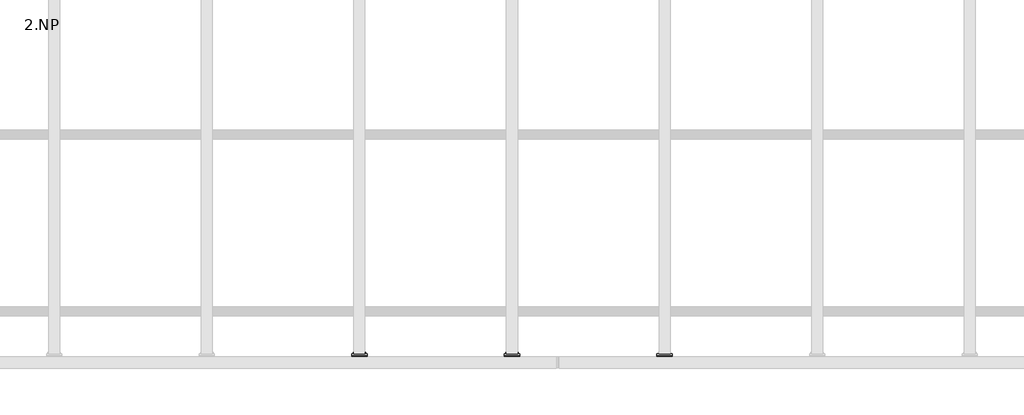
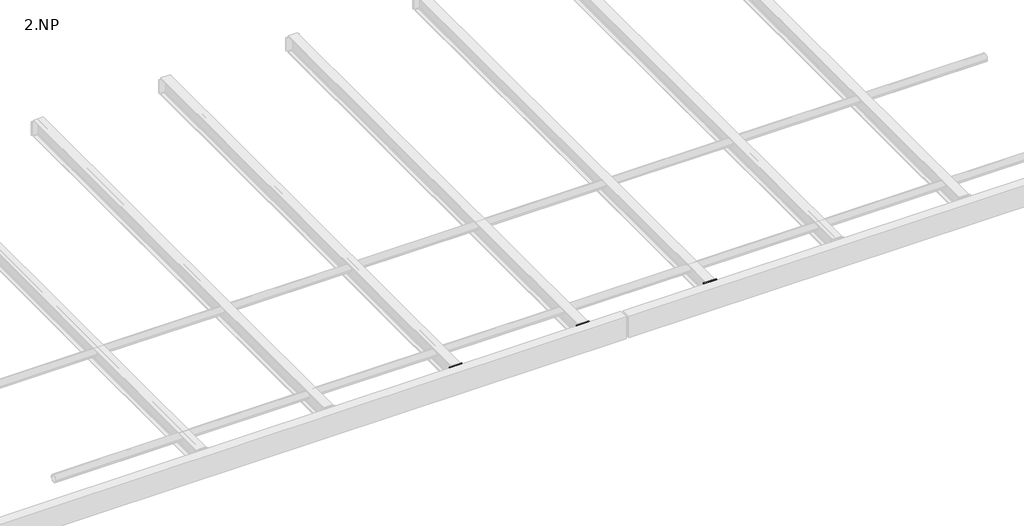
# One storey, part 5 of 18: 12 proxies.
"""IFC4 building model written with IfcOpenShell, lengths in millimetres."""

from ifc_helpers import new_model, si_unit, point, frame, frame_2d, origin, place, context, project, spatial, polyline, circle_curve, trimmed, segment, composite_curve, outline, extrude, element, save

model = new_model("IFC4")

# Units and contexts
model_context = context("Model", 3, world=origin())
ifc_project = project(units=[si_unit("LENGTHUNIT", "METRE", prefix="MILLI")], contexts=[model_context])

# Site, building, storey
site = spatial("IfcSite", under=ifc_project)
building = spatial("IfcBuilding", under=site)
storey = spatial("IfcBuildingStorey", under=building, Name="2.NP", Elevation=3000.0)

# Proxies
placement = place(None, origin())
element("IfcBuildingElementProxy", 1, Name="PLECH", ObjectType="PLECH", at=placement, inside=storey, context=model_context, shape_type="SweptSolid", body=[
    extrude(outline(polyline([(7000.0, -180.0), (7100.0, -180.0), (7100.0, -190.0), (7000.0, -190.0), (7000.0, -180.0)])), frame((0.0, 0.0, 3166.5), z_axis=(0.0, 0.0, 1.0), x_axis=(1.0, 0.0, 0.0)), (0.0, 0.0, 1.0), 127.0),
])
element("IfcBuildingElementProxy", 2, Name="PLECH", ObjectType="PLECH", at=placement, inside=storey, context=model_context, shape_type="SweptSolid", body=[
    extrude(outline(polyline([(8000.0, -180.0), (8100.0, -180.0), (8100.0, -190.0), (8000.0, -190.0), (8000.0, -180.0)])), frame((0.0, 0.0, 3166.5), z_axis=(0.0, 0.0, 1.0), x_axis=(1.0, 0.0, 0.0)), (0.0, 0.0, 1.0), 127.0),
])
element("IfcBuildingElementProxy", 3, Name="PLECH", ObjectType="PLECH", at=placement, inside=storey, context=model_context, shape_type="SweptSolid", body=[
    extrude(outline(polyline([(9000.0, -180.0), (9100.0, -180.0), (9100.0, -190.0), (9000.0, -190.0), (9000.0, -180.0)])), frame((0.0, 0.0, 3166.5), z_axis=(0.0, 0.0, 1.0), x_axis=(1.0, 0.0, 0.0)), (0.0, 0.0, 1.0), 127.0),
])
element("IfcBuildingElementProxy", 4, Name="PLECH", ObjectType="PLECH", at=placement, inside=storey, context=model_context, shape_type="SweptSolid", body=[
    extrude(outline(polyline([(7000.0, -190.0), (7100.0, -190.0), (7100.0, -200.0), (7000.0, -200.0), (7000.0, -190.0)])), frame((0.0, 0.0, 3127.5), z_axis=(0.0, 0.0, 1.0), x_axis=(1.0, 0.0, 0.0)), (0.0, 0.0, 1.0), 166.0000153),
])
element("IfcBuildingElementProxy", 5, Name="PLECH", ObjectType="PLECH", at=placement, inside=storey, context=model_context, shape_type="SweptSolid", body=[
    extrude(outline(composite_curve([segment(polyline([(-200.0, 3289.5), (-200.0, 3130.5), (-249.5, 3130.5)]), True, "CONTINUOUS"), segment(trimmed(circle_curve(frame_2d((-269.5, 3130.5)), 20.0), [point((-249.5, 3130.5))], [point((-269.5, 3150.5))], True, "CARTESIAN"), True, "CONTINUOUS"), segment(polyline([(-269.5, 3150.5), (-269.5, 3269.5)]), True, "CONTINUOUS"), segment(trimmed(circle_curve(frame_2d((-269.5, 3289.5)), 20.0), [point((-269.5, 3269.5))], [point((-249.5, 3289.5))], True, "CARTESIAN"), True, "CONTINUOUS"), segment(polyline([(-249.5, 3289.5), (-200.0, 3289.5)]), True, "CONTINUOUS")], self_intersect=False)), frame((7046.0, 0.0, 0.0), z_axis=(1.0, 0.0, 0.0), x_axis=(0.0, 1.0, 0.0)), (0.0, 0.0, 1.0), 8.0),
])
element("IfcBuildingElementProxy", 6, Name="PLECH", ObjectType="PLECH", at=placement, inside=storey, context=model_context, shape_type="SweptSolid", body=[
    extrude(outline(polyline([(8000.0, -190.0), (8100.0, -190.0), (8100.0, -200.0), (8000.0, -200.0), (8000.0, -190.0)])), frame((0.0, 0.0, 3127.5), z_axis=(0.0, 0.0, 1.0), x_axis=(1.0, 0.0, 0.0)), (0.0, 0.0, 1.0), 166.0000153),
])
element("IfcBuildingElementProxy", 7, Name="PLECH", ObjectType="PLECH", at=placement, inside=storey, context=model_context, shape_type="SweptSolid", body=[
    extrude(outline(composite_curve([segment(polyline([(-200.0, 3289.5), (-200.0, 3130.5), (-249.5, 3130.5)]), True, "CONTINUOUS"), segment(trimmed(circle_curve(frame_2d((-269.5, 3130.5)), 20.0), [point((-249.5, 3130.5))], [point((-269.5, 3150.5))], True, "CARTESIAN"), True, "CONTINUOUS"), segment(polyline([(-269.5, 3150.5), (-269.5, 3269.5)]), True, "CONTINUOUS"), segment(trimmed(circle_curve(frame_2d((-269.5, 3289.5)), 20.0), [point((-269.5, 3269.5))], [point((-249.5, 3289.5))], True, "CARTESIAN"), True, "CONTINUOUS"), segment(polyline([(-249.5, 3289.5), (-200.0, 3289.5)]), True, "CONTINUOUS")], self_intersect=False)), frame((8046.0, 0.0, 0.0), z_axis=(1.0, 0.0, 0.0), x_axis=(0.0, 1.0, 0.0)), (0.0, 0.0, 1.0), 8.0),
])
element("IfcBuildingElementProxy", 8, Name="PLECH", ObjectType="PLECH", at=placement, inside=storey, context=model_context, shape_type="SweptSolid", body=[
    extrude(outline(polyline([(9000.0, -190.0), (9100.0, -190.0), (9100.0, -200.0), (9000.0, -200.0), (9000.0, -190.0)])), frame((0.0, 0.0, 3127.5), z_axis=(0.0, 0.0, 1.0), x_axis=(1.0, 0.0, 0.0)), (0.0, 0.0, 1.0), 166.0000153),
])
element("IfcBuildingElementProxy", 9, Name="PLECH", ObjectType="PLECH", at=placement, inside=storey, context=model_context, shape_type="SweptSolid", body=[
    extrude(outline(composite_curve([segment(polyline([(-200.0, 3289.5), (-200.0, 3130.5), (-249.5, 3130.5)]), True, "CONTINUOUS"), segment(trimmed(circle_curve(frame_2d((-269.5, 3130.5)), 20.0), [point((-249.5, 3130.5))], [point((-269.5, 3150.5))], True, "CARTESIAN"), True, "CONTINUOUS"), segment(polyline([(-269.5, 3150.5), (-269.5, 3269.5)]), True, "CONTINUOUS"), segment(trimmed(circle_curve(frame_2d((-269.5, 3289.5)), 20.0), [point((-269.5, 3269.5))], [point((-249.5, 3289.5))], True, "CARTESIAN"), True, "CONTINUOUS"), segment(polyline([(-249.5, 3289.5), (-200.0, 3289.5)]), True, "CONTINUOUS")], self_intersect=False)), frame((9046.0, 0.0, 0.0), z_axis=(1.0, 0.0, 0.0), x_axis=(0.0, 1.0, 0.0)), (0.0, 0.0, 1.0), 8.0),
])
element("IfcBuildingElementProxy", 10, Name="Bolt assembly", ObjectType="Bolt assembly", at=placement, inside=storey, context=model_context, shape_type="SweptSolid", body=[
    extrude(outline(composite_curve([segment(trimmed(circle_curve(frame_2d((3260.0, 7020.0)), 6.5), [point((3260.0, 7026.5))], [point((3260.0, 7013.5))], False, "CARTESIAN"), True, "CONTINUOUS"), segment(trimmed(circle_curve(frame_2d((3260.0, 7020.0)), 6.5), [point((3260.0, 7013.5))], [point((3260.0, 7026.5))], False, "CARTESIAN"), True, "CONTINUOUS")], self_intersect=False)), frame((0.0, -199.9, 0.0), z_axis=(0.0, 1.0, 0.0), x_axis=(0.0, 0.0, 1.0)), (0.0, 0.0, 1.0), 10.0),
    extrude(outline(polyline([(3260.0, 7030.9696551), (3269.5, 7025.4848276), (3269.5, 7014.5151724), (3260.0, 7009.0303449), (3250.5, 7014.5151724), (3250.5, 7025.4848276), (3260.0, 7030.9696551)])), frame((0.0, -210.0, 0.0), z_axis=(0.0, 1.0, 0.0), x_axis=(0.0, 0.0, 1.0)), (0.0, 0.0, 1.0), 7.5),
    extrude(outline(composite_curve([segment(trimmed(circle_curve(frame_2d((3260.0, 7020.0)), 6.0), [point((3260.0, 7026.0))], [point((3260.0, 7014.0))], False, "CARTESIAN"), True, "CONTINUOUS"), segment(trimmed(circle_curve(frame_2d((3260.0, 7020.0)), 6.0), [point((3260.0, 7014.0))], [point((3260.0, 7026.0))], False, "CARTESIAN"), True, "CONTINUOUS")], self_intersect=False)), frame((0.0, -202.5, 0.0), z_axis=(0.0, 1.0, 0.0), x_axis=(0.0, 0.0, 1.0)), (0.0, 0.0, 1.0), 40.0),
    extrude(outline(composite_curve([segment(trimmed(circle_curve(frame_2d((3260.0, 7020.0)), 12.0), [point((3260.0, 7032.0))], [point((3260.0, 7008.0))], False, "CARTESIAN"), True, "CONTINUOUS"), segment(trimmed(circle_curve(frame_2d((3260.0, 7020.0)), 12.0), [point((3260.0, 7008.0))], [point((3260.0, 7032.0))], False, "CARTESIAN"), True, "CONTINUOUS")], self_intersect=False)), frame((0.0, -202.5, 0.0), z_axis=(0.0, 1.0, 0.0), x_axis=(0.0, 0.0, 1.0)), (0.0, 0.0, 1.0), 2.5),
    extrude(outline(composite_curve([segment(trimmed(circle_curve(frame_2d((3260.0, 7020.0)), 12.0), [point((3260.0, 7032.0))], [point((3260.0, 7008.0))], False, "CARTESIAN"), True, "CONTINUOUS"), segment(trimmed(circle_curve(frame_2d((3260.0, 7020.0)), 12.0), [point((3260.0, 7008.0))], [point((3260.0, 7032.0))], False, "CARTESIAN"), True, "CONTINUOUS")], self_intersect=False)), frame((0.0, -180.0, 0.0), z_axis=(0.0, 1.0, 0.0), x_axis=(0.0, 0.0, 1.0)), (0.0, 0.0, 1.0), 2.5),
    extrude(outline(polyline([(3260.0, 7030.9696551), (3269.5, 7025.4848276), (3269.5, 7014.5151724), (3260.0, 7009.0303449), (3250.5, 7014.5151724), (3250.5, 7025.4848276), (3260.0, 7030.9696551)])), frame((0.0, -177.5, 0.0), z_axis=(0.0, 1.0, 0.0), x_axis=(0.0, 0.0, 1.0)), (0.0, 0.0, 1.0), 10.0),
    extrude(outline(composite_curve([segment(trimmed(circle_curve(frame_2d((3260.0, 7020.0)), 6.5), [point((3260.0, 7026.5))], [point((3260.0, 7013.5))], False, "CARTESIAN"), True, "CONTINUOUS"), segment(trimmed(circle_curve(frame_2d((3260.0, 7020.0)), 6.5), [point((3260.0, 7013.5))], [point((3260.0, 7026.5))], False, "CARTESIAN"), True, "CONTINUOUS")], self_intersect=False)), frame((0.0, -190.1, 0.0), z_axis=(0.0, 1.0, 0.0), x_axis=(0.0, 0.0, 1.0)), (0.0, 0.0, 1.0), 10.1),
    extrude(outline(composite_curve([segment(trimmed(circle_curve(frame_2d((3260.0, 7080.0)), 6.5), [point((3260.0, 7086.5))], [point((3260.0, 7073.5))], False, "CARTESIAN"), True, "CONTINUOUS"), segment(trimmed(circle_curve(frame_2d((3260.0, 7080.0)), 6.5), [point((3260.0, 7073.5))], [point((3260.0, 7086.5))], False, "CARTESIAN"), True, "CONTINUOUS")], self_intersect=False)), frame((0.0, -199.9, 0.0), z_axis=(0.0, 1.0, 0.0), x_axis=(0.0, 0.0, 1.0)), (0.0, 0.0, 1.0), 10.0),
    extrude(outline(polyline([(3260.0, 7090.9696551), (3269.5, 7085.4848276), (3269.5, 7074.5151724), (3260.0, 7069.0303449), (3250.5, 7074.5151724), (3250.5, 7085.4848276), (3260.0, 7090.9696551)])), frame((0.0, -210.0, 0.0), z_axis=(0.0, 1.0, 0.0), x_axis=(0.0, 0.0, 1.0)), (0.0, 0.0, 1.0), 7.5),
    extrude(outline(composite_curve([segment(trimmed(circle_curve(frame_2d((3260.0, 7080.0)), 6.0), [point((3260.0, 7086.0))], [point((3260.0, 7074.0))], False, "CARTESIAN"), True, "CONTINUOUS"), segment(trimmed(circle_curve(frame_2d((3260.0, 7080.0)), 6.0), [point((3260.0, 7074.0))], [point((3260.0, 7086.0))], False, "CARTESIAN"), True, "CONTINUOUS")], self_intersect=False)), frame((0.0, -202.5, 0.0), z_axis=(0.0, 1.0, 0.0), x_axis=(0.0, 0.0, 1.0)), (0.0, 0.0, 1.0), 40.0),
    extrude(outline(composite_curve([segment(trimmed(circle_curve(frame_2d((3260.0, 7080.0)), 12.0), [point((3260.0, 7092.0))], [point((3260.0, 7068.0))], False, "CARTESIAN"), True, "CONTINUOUS"), segment(trimmed(circle_curve(frame_2d((3260.0, 7080.0)), 12.0), [point((3260.0, 7068.0))], [point((3260.0, 7092.0))], False, "CARTESIAN"), True, "CONTINUOUS")], self_intersect=False)), frame((0.0, -202.5, 0.0), z_axis=(0.0, 1.0, 0.0), x_axis=(0.0, 0.0, 1.0)), (0.0, 0.0, 1.0), 2.5),
    extrude(outline(composite_curve([segment(trimmed(circle_curve(frame_2d((3260.0, 7080.0)), 12.0), [point((3260.0, 7092.0))], [point((3260.0, 7068.0))], False, "CARTESIAN"), True, "CONTINUOUS"), segment(trimmed(circle_curve(frame_2d((3260.0, 7080.0)), 12.0), [point((3260.0, 7068.0))], [point((3260.0, 7092.0))], False, "CARTESIAN"), True, "CONTINUOUS")], self_intersect=False)), frame((0.0, -180.0, 0.0), z_axis=(0.0, 1.0, 0.0), x_axis=(0.0, 0.0, 1.0)), (0.0, 0.0, 1.0), 2.5),
    extrude(outline(polyline([(3260.0, 7090.9696551), (3269.5, 7085.4848276), (3269.5, 7074.5151724), (3260.0, 7069.0303449), (3250.5, 7074.5151724), (3250.5, 7085.4848276), (3260.0, 7090.9696551)])), frame((0.0, -177.5, 0.0), z_axis=(0.0, 1.0, 0.0), x_axis=(0.0, 0.0, 1.0)), (0.0, 0.0, 1.0), 10.0),
    extrude(outline(composite_curve([segment(trimmed(circle_curve(frame_2d((3260.0, 7080.0)), 6.5), [point((3260.0, 7086.5))], [point((3260.0, 7073.5))], False, "CARTESIAN"), True, "CONTINUOUS"), segment(trimmed(circle_curve(frame_2d((3260.0, 7080.0)), 6.5), [point((3260.0, 7073.5))], [point((3260.0, 7086.5))], False, "CARTESIAN"), True, "CONTINUOUS")], self_intersect=False)), frame((0.0, -190.1, 0.0), z_axis=(0.0, 1.0, 0.0), x_axis=(0.0, 0.0, 1.0)), (0.0, 0.0, 1.0), 10.1),
    extrude(outline(composite_curve([segment(trimmed(circle_curve(frame_2d((3200.0, 7020.0)), 6.5), [point((3200.0, 7026.5))], [point((3200.0, 7013.5))], False, "CARTESIAN"), True, "CONTINUOUS"), segment(trimmed(circle_curve(frame_2d((3200.0, 7020.0)), 6.5), [point((3200.0, 7013.5))], [point((3200.0, 7026.5))], False, "CARTESIAN"), True, "CONTINUOUS")], self_intersect=False)), frame((0.0, -199.9, 0.0), z_axis=(0.0, 1.0, 0.0), x_axis=(0.0, 0.0, 1.0)), (0.0, 0.0, 1.0), 10.0),
    extrude(outline(polyline([(3200.0, 7030.9696551), (3209.5, 7025.4848276), (3209.5, 7014.5151724), (3200.0, 7009.0303449), (3190.5, 7014.5151724), (3190.5, 7025.4848276), (3200.0, 7030.9696551)])), frame((0.0, -210.0, 0.0), z_axis=(0.0, 1.0, 0.0), x_axis=(0.0, 0.0, 1.0)), (0.0, 0.0, 1.0), 7.5),
    extrude(outline(composite_curve([segment(trimmed(circle_curve(frame_2d((3200.0, 7020.0)), 6.0), [point((3200.0, 7026.0))], [point((3200.0, 7014.0))], False, "CARTESIAN"), True, "CONTINUOUS"), segment(trimmed(circle_curve(frame_2d((3200.0, 7020.0)), 6.0), [point((3200.0, 7014.0))], [point((3200.0, 7026.0))], False, "CARTESIAN"), True, "CONTINUOUS")], self_intersect=False)), frame((0.0, -202.5, 0.0), z_axis=(0.0, 1.0, 0.0), x_axis=(0.0, 0.0, 1.0)), (0.0, 0.0, 1.0), 40.0),
    extrude(outline(composite_curve([segment(trimmed(circle_curve(frame_2d((3200.0, 7020.0)), 12.0), [point((3200.0, 7032.0))], [point((3200.0, 7008.0))], False, "CARTESIAN"), True, "CONTINUOUS"), segment(trimmed(circle_curve(frame_2d((3200.0, 7020.0)), 12.0), [point((3200.0, 7008.0))], [point((3200.0, 7032.0))], False, "CARTESIAN"), True, "CONTINUOUS")], self_intersect=False)), frame((0.0, -202.5, 0.0), z_axis=(0.0, 1.0, 0.0), x_axis=(0.0, 0.0, 1.0)), (0.0, 0.0, 1.0), 2.5),
    extrude(outline(composite_curve([segment(trimmed(circle_curve(frame_2d((3200.0, 7020.0)), 12.0), [point((3200.0, 7032.0))], [point((3200.0, 7008.0))], False, "CARTESIAN"), True, "CONTINUOUS"), segment(trimmed(circle_curve(frame_2d((3200.0, 7020.0)), 12.0), [point((3200.0, 7008.0))], [point((3200.0, 7032.0))], False, "CARTESIAN"), True, "CONTINUOUS")], self_intersect=False)), frame((0.0, -180.0, 0.0), z_axis=(0.0, 1.0, 0.0), x_axis=(0.0, 0.0, 1.0)), (0.0, 0.0, 1.0), 2.5),
    extrude(outline(polyline([(3200.0, 7030.9696551), (3209.5, 7025.4848276), (3209.5, 7014.5151724), (3200.0, 7009.0303449), (3190.5, 7014.5151724), (3190.5, 7025.4848276), (3200.0, 7030.9696551)])), frame((0.0, -177.5, 0.0), z_axis=(0.0, 1.0, 0.0), x_axis=(0.0, 0.0, 1.0)), (0.0, 0.0, 1.0), 10.0),
    extrude(outline(composite_curve([segment(trimmed(circle_curve(frame_2d((3200.0, 7020.0)), 6.5), [point((3200.0, 7026.5))], [point((3200.0, 7013.5))], False, "CARTESIAN"), True, "CONTINUOUS"), segment(trimmed(circle_curve(frame_2d((3200.0, 7020.0)), 6.5), [point((3200.0, 7013.5))], [point((3200.0, 7026.5))], False, "CARTESIAN"), True, "CONTINUOUS")], self_intersect=False)), frame((0.0, -190.1, 0.0), z_axis=(0.0, 1.0, 0.0), x_axis=(0.0, 0.0, 1.0)), (0.0, 0.0, 1.0), 10.1),
    extrude(outline(composite_curve([segment(trimmed(circle_curve(frame_2d((3200.0, 7080.0)), 6.5), [point((3200.0, 7086.5))], [point((3200.0, 7073.5))], False, "CARTESIAN"), True, "CONTINUOUS"), segment(trimmed(circle_curve(frame_2d((3200.0, 7080.0)), 6.5), [point((3200.0, 7073.5))], [point((3200.0, 7086.5))], False, "CARTESIAN"), True, "CONTINUOUS")], self_intersect=False)), frame((0.0, -199.9, 0.0), z_axis=(0.0, 1.0, 0.0), x_axis=(0.0, 0.0, 1.0)), (0.0, 0.0, 1.0), 10.0),
    extrude(outline(polyline([(3200.0, 7090.9696551), (3209.5, 7085.4848276), (3209.5, 7074.5151724), (3200.0, 7069.0303449), (3190.5, 7074.5151724), (3190.5, 7085.4848276), (3200.0, 7090.9696551)])), frame((0.0, -210.0, 0.0), z_axis=(0.0, 1.0, 0.0), x_axis=(0.0, 0.0, 1.0)), (0.0, 0.0, 1.0), 7.5),
    extrude(outline(composite_curve([segment(trimmed(circle_curve(frame_2d((3200.0, 7080.0)), 6.0), [point((3200.0, 7086.0))], [point((3200.0, 7074.0))], False, "CARTESIAN"), True, "CONTINUOUS"), segment(trimmed(circle_curve(frame_2d((3200.0, 7080.0)), 6.0), [point((3200.0, 7074.0))], [point((3200.0, 7086.0))], False, "CARTESIAN"), True, "CONTINUOUS")], self_intersect=False)), frame((0.0, -202.5, 0.0), z_axis=(0.0, 1.0, 0.0), x_axis=(0.0, 0.0, 1.0)), (0.0, 0.0, 1.0), 40.0),
    extrude(outline(composite_curve([segment(trimmed(circle_curve(frame_2d((3200.0, 7080.0)), 12.0), [point((3200.0, 7092.0))], [point((3200.0, 7068.0))], False, "CARTESIAN"), True, "CONTINUOUS"), segment(trimmed(circle_curve(frame_2d((3200.0, 7080.0)), 12.0), [point((3200.0, 7068.0))], [point((3200.0, 7092.0))], False, "CARTESIAN"), True, "CONTINUOUS")], self_intersect=False)), frame((0.0, -202.5, 0.0), z_axis=(0.0, 1.0, 0.0), x_axis=(0.0, 0.0, 1.0)), (0.0, 0.0, 1.0), 2.5),
    extrude(outline(composite_curve([segment(trimmed(circle_curve(frame_2d((3200.0, 7080.0)), 12.0), [point((3200.0, 7092.0))], [point((3200.0, 7068.0))], False, "CARTESIAN"), True, "CONTINUOUS"), segment(trimmed(circle_curve(frame_2d((3200.0, 7080.0)), 12.0), [point((3200.0, 7068.0))], [point((3200.0, 7092.0))], False, "CARTESIAN"), True, "CONTINUOUS")], self_intersect=False)), frame((0.0, -180.0, 0.0), z_axis=(0.0, 1.0, 0.0), x_axis=(0.0, 0.0, 1.0)), (0.0, 0.0, 1.0), 2.5),
    extrude(outline(polyline([(3200.0, 7090.9696551), (3209.5, 7085.4848276), (3209.5, 7074.5151724), (3200.0, 7069.0303449), (3190.5, 7074.5151724), (3190.5, 7085.4848276), (3200.0, 7090.9696551)])), frame((0.0, -177.5, 0.0), z_axis=(0.0, 1.0, 0.0), x_axis=(0.0, 0.0, 1.0)), (0.0, 0.0, 1.0), 10.0),
    extrude(outline(composite_curve([segment(trimmed(circle_curve(frame_2d((3200.0, 7080.0)), 6.5), [point((3200.0, 7086.5))], [point((3200.0, 7073.5))], False, "CARTESIAN"), True, "CONTINUOUS"), segment(trimmed(circle_curve(frame_2d((3200.0, 7080.0)), 6.5), [point((3200.0, 7073.5))], [point((3200.0, 7086.5))], False, "CARTESIAN"), True, "CONTINUOUS")], self_intersect=False)), frame((0.0, -190.1, 0.0), z_axis=(0.0, 1.0, 0.0), x_axis=(0.0, 0.0, 1.0)), (0.0, 0.0, 1.0), 10.1),
])
element("IfcBuildingElementProxy", 11, Name="Bolt assembly", ObjectType="Bolt assembly", at=placement, inside=storey, context=model_context, shape_type="SweptSolid", body=[
    extrude(outline(composite_curve([segment(trimmed(circle_curve(frame_2d((3260.0, 8020.0)), 6.5), [point((3260.0, 8026.5))], [point((3260.0, 8013.5))], False, "CARTESIAN"), True, "CONTINUOUS"), segment(trimmed(circle_curve(frame_2d((3260.0, 8020.0)), 6.5), [point((3260.0, 8013.5))], [point((3260.0, 8026.5))], False, "CARTESIAN"), True, "CONTINUOUS")], self_intersect=False)), frame((0.0, -199.9, 0.0), z_axis=(0.0, 1.0, 0.0), x_axis=(0.0, 0.0, 1.0)), (0.0, 0.0, 1.0), 10.0),
    extrude(outline(polyline([(3260.0, 8030.9696551), (3269.5, 8025.4848276), (3269.5, 8014.5151724), (3260.0, 8009.0303449), (3250.5, 8014.5151724), (3250.5, 8025.4848276), (3260.0, 8030.9696551)])), frame((0.0, -210.0, 0.0), z_axis=(0.0, 1.0, 0.0), x_axis=(0.0, 0.0, 1.0)), (0.0, 0.0, 1.0), 7.5),
    extrude(outline(composite_curve([segment(trimmed(circle_curve(frame_2d((3260.0, 8020.0)), 6.0), [point((3260.0, 8026.0))], [point((3260.0, 8014.0))], False, "CARTESIAN"), True, "CONTINUOUS"), segment(trimmed(circle_curve(frame_2d((3260.0, 8020.0)), 6.0), [point((3260.0, 8014.0))], [point((3260.0, 8026.0))], False, "CARTESIAN"), True, "CONTINUOUS")], self_intersect=False)), frame((0.0, -202.5, 0.0), z_axis=(0.0, 1.0, 0.0), x_axis=(0.0, 0.0, 1.0)), (0.0, 0.0, 1.0), 40.0),
    extrude(outline(composite_curve([segment(trimmed(circle_curve(frame_2d((3260.0, 8020.0)), 12.0), [point((3260.0, 8032.0))], [point((3260.0, 8008.0))], False, "CARTESIAN"), True, "CONTINUOUS"), segment(trimmed(circle_curve(frame_2d((3260.0, 8020.0)), 12.0), [point((3260.0, 8008.0))], [point((3260.0, 8032.0))], False, "CARTESIAN"), True, "CONTINUOUS")], self_intersect=False)), frame((0.0, -202.5, 0.0), z_axis=(0.0, 1.0, 0.0), x_axis=(0.0, 0.0, 1.0)), (0.0, 0.0, 1.0), 2.5),
    extrude(outline(composite_curve([segment(trimmed(circle_curve(frame_2d((3260.0, 8020.0)), 12.0), [point((3260.0, 8032.0))], [point((3260.0, 8008.0))], False, "CARTESIAN"), True, "CONTINUOUS"), segment(trimmed(circle_curve(frame_2d((3260.0, 8020.0)), 12.0), [point((3260.0, 8008.0))], [point((3260.0, 8032.0))], False, "CARTESIAN"), True, "CONTINUOUS")], self_intersect=False)), frame((0.0, -180.0, 0.0), z_axis=(0.0, 1.0, 0.0), x_axis=(0.0, 0.0, 1.0)), (0.0, 0.0, 1.0), 2.5),
    extrude(outline(polyline([(3260.0, 8030.9696551), (3269.5, 8025.4848276), (3269.5, 8014.5151724), (3260.0, 8009.0303449), (3250.5, 8014.5151724), (3250.5, 8025.4848276), (3260.0, 8030.9696551)])), frame((0.0, -177.5, 0.0), z_axis=(0.0, 1.0, 0.0), x_axis=(0.0, 0.0, 1.0)), (0.0, 0.0, 1.0), 10.0),
    extrude(outline(composite_curve([segment(trimmed(circle_curve(frame_2d((3260.0, 8020.0)), 6.5), [point((3260.0, 8026.5))], [point((3260.0, 8013.5))], False, "CARTESIAN"), True, "CONTINUOUS"), segment(trimmed(circle_curve(frame_2d((3260.0, 8020.0)), 6.5), [point((3260.0, 8013.5))], [point((3260.0, 8026.5))], False, "CARTESIAN"), True, "CONTINUOUS")], self_intersect=False)), frame((0.0, -190.1, 0.0), z_axis=(0.0, 1.0, 0.0), x_axis=(0.0, 0.0, 1.0)), (0.0, 0.0, 1.0), 10.1),
    extrude(outline(composite_curve([segment(trimmed(circle_curve(frame_2d((3260.0, 8080.0)), 6.5), [point((3260.0, 8086.5))], [point((3260.0, 8073.5))], False, "CARTESIAN"), True, "CONTINUOUS"), segment(trimmed(circle_curve(frame_2d((3260.0, 8080.0)), 6.5), [point((3260.0, 8073.5))], [point((3260.0, 8086.5))], False, "CARTESIAN"), True, "CONTINUOUS")], self_intersect=False)), frame((0.0, -199.9, 0.0), z_axis=(0.0, 1.0, 0.0), x_axis=(0.0, 0.0, 1.0)), (0.0, 0.0, 1.0), 10.0),
    extrude(outline(polyline([(3260.0, 8090.9696551), (3269.5, 8085.4848276), (3269.5, 8074.5151724), (3260.0, 8069.0303449), (3250.5, 8074.5151724), (3250.5, 8085.4848276), (3260.0, 8090.9696551)])), frame((0.0, -210.0, 0.0), z_axis=(0.0, 1.0, 0.0), x_axis=(0.0, 0.0, 1.0)), (0.0, 0.0, 1.0), 7.5),
    extrude(outline(composite_curve([segment(trimmed(circle_curve(frame_2d((3260.0, 8080.0)), 6.0), [point((3260.0, 8086.0))], [point((3260.0, 8074.0))], False, "CARTESIAN"), True, "CONTINUOUS"), segment(trimmed(circle_curve(frame_2d((3260.0, 8080.0)), 6.0), [point((3260.0, 8074.0))], [point((3260.0, 8086.0))], False, "CARTESIAN"), True, "CONTINUOUS")], self_intersect=False)), frame((0.0, -202.5, 0.0), z_axis=(0.0, 1.0, 0.0), x_axis=(0.0, 0.0, 1.0)), (0.0, 0.0, 1.0), 40.0),
    extrude(outline(composite_curve([segment(trimmed(circle_curve(frame_2d((3260.0, 8080.0)), 12.0), [point((3260.0, 8092.0))], [point((3260.0, 8068.0))], False, "CARTESIAN"), True, "CONTINUOUS"), segment(trimmed(circle_curve(frame_2d((3260.0, 8080.0)), 12.0), [point((3260.0, 8068.0))], [point((3260.0, 8092.0))], False, "CARTESIAN"), True, "CONTINUOUS")], self_intersect=False)), frame((0.0, -202.5, 0.0), z_axis=(0.0, 1.0, 0.0), x_axis=(0.0, 0.0, 1.0)), (0.0, 0.0, 1.0), 2.5),
    extrude(outline(composite_curve([segment(trimmed(circle_curve(frame_2d((3260.0, 8080.0)), 12.0), [point((3260.0, 8092.0))], [point((3260.0, 8068.0))], False, "CARTESIAN"), True, "CONTINUOUS"), segment(trimmed(circle_curve(frame_2d((3260.0, 8080.0)), 12.0), [point((3260.0, 8068.0))], [point((3260.0, 8092.0))], False, "CARTESIAN"), True, "CONTINUOUS")], self_intersect=False)), frame((0.0, -180.0, 0.0), z_axis=(0.0, 1.0, 0.0), x_axis=(0.0, 0.0, 1.0)), (0.0, 0.0, 1.0), 2.5),
    extrude(outline(polyline([(3260.0, 8090.9696551), (3269.5, 8085.4848276), (3269.5, 8074.5151724), (3260.0, 8069.0303449), (3250.5, 8074.5151724), (3250.5, 8085.4848276), (3260.0, 8090.9696551)])), frame((0.0, -177.5, 0.0), z_axis=(0.0, 1.0, 0.0), x_axis=(0.0, 0.0, 1.0)), (0.0, 0.0, 1.0), 10.0),
    extrude(outline(composite_curve([segment(trimmed(circle_curve(frame_2d((3260.0, 8080.0)), 6.5), [point((3260.0, 8086.5))], [point((3260.0, 8073.5))], False, "CARTESIAN"), True, "CONTINUOUS"), segment(trimmed(circle_curve(frame_2d((3260.0, 8080.0)), 6.5), [point((3260.0, 8073.5))], [point((3260.0, 8086.5))], False, "CARTESIAN"), True, "CONTINUOUS")], self_intersect=False)), frame((0.0, -190.1, 0.0), z_axis=(0.0, 1.0, 0.0), x_axis=(0.0, 0.0, 1.0)), (0.0, 0.0, 1.0), 10.1),
    extrude(outline(composite_curve([segment(trimmed(circle_curve(frame_2d((3200.0, 8020.0)), 6.5), [point((3200.0, 8026.5))], [point((3200.0, 8013.5))], False, "CARTESIAN"), True, "CONTINUOUS"), segment(trimmed(circle_curve(frame_2d((3200.0, 8020.0)), 6.5), [point((3200.0, 8013.5))], [point((3200.0, 8026.5))], False, "CARTESIAN"), True, "CONTINUOUS")], self_intersect=False)), frame((0.0, -199.9, 0.0), z_axis=(0.0, 1.0, 0.0), x_axis=(0.0, 0.0, 1.0)), (0.0, 0.0, 1.0), 10.0),
    extrude(outline(polyline([(3200.0, 8030.9696551), (3209.5, 8025.4848276), (3209.5, 8014.5151724), (3200.0, 8009.0303449), (3190.5, 8014.5151724), (3190.5, 8025.4848276), (3200.0, 8030.9696551)])), frame((0.0, -210.0, 0.0), z_axis=(0.0, 1.0, 0.0), x_axis=(0.0, 0.0, 1.0)), (0.0, 0.0, 1.0), 7.5),
    extrude(outline(composite_curve([segment(trimmed(circle_curve(frame_2d((3200.0, 8020.0)), 6.0), [point((3200.0, 8026.0))], [point((3200.0, 8014.0))], False, "CARTESIAN"), True, "CONTINUOUS"), segment(trimmed(circle_curve(frame_2d((3200.0, 8020.0)), 6.0), [point((3200.0, 8014.0))], [point((3200.0, 8026.0))], False, "CARTESIAN"), True, "CONTINUOUS")], self_intersect=False)), frame((0.0, -202.5, 0.0), z_axis=(0.0, 1.0, 0.0), x_axis=(0.0, 0.0, 1.0)), (0.0, 0.0, 1.0), 40.0),
    extrude(outline(composite_curve([segment(trimmed(circle_curve(frame_2d((3200.0, 8020.0)), 12.0), [point((3200.0, 8032.0))], [point((3200.0, 8008.0))], False, "CARTESIAN"), True, "CONTINUOUS"), segment(trimmed(circle_curve(frame_2d((3200.0, 8020.0)), 12.0), [point((3200.0, 8008.0))], [point((3200.0, 8032.0))], False, "CARTESIAN"), True, "CONTINUOUS")], self_intersect=False)), frame((0.0, -202.5, 0.0), z_axis=(0.0, 1.0, 0.0), x_axis=(0.0, 0.0, 1.0)), (0.0, 0.0, 1.0), 2.5),
    extrude(outline(composite_curve([segment(trimmed(circle_curve(frame_2d((3200.0, 8020.0)), 12.0), [point((3200.0, 8032.0))], [point((3200.0, 8008.0))], False, "CARTESIAN"), True, "CONTINUOUS"), segment(trimmed(circle_curve(frame_2d((3200.0, 8020.0)), 12.0), [point((3200.0, 8008.0))], [point((3200.0, 8032.0))], False, "CARTESIAN"), True, "CONTINUOUS")], self_intersect=False)), frame((0.0, -180.0, 0.0), z_axis=(0.0, 1.0, 0.0), x_axis=(0.0, 0.0, 1.0)), (0.0, 0.0, 1.0), 2.5),
    extrude(outline(polyline([(3200.0, 8030.9696551), (3209.5, 8025.4848276), (3209.5, 8014.5151724), (3200.0, 8009.0303449), (3190.5, 8014.5151724), (3190.5, 8025.4848276), (3200.0, 8030.9696551)])), frame((0.0, -177.5, 0.0), z_axis=(0.0, 1.0, 0.0), x_axis=(0.0, 0.0, 1.0)), (0.0, 0.0, 1.0), 10.0),
    extrude(outline(composite_curve([segment(trimmed(circle_curve(frame_2d((3200.0, 8020.0)), 6.5), [point((3200.0, 8026.5))], [point((3200.0, 8013.5))], False, "CARTESIAN"), True, "CONTINUOUS"), segment(trimmed(circle_curve(frame_2d((3200.0, 8020.0)), 6.5), [point((3200.0, 8013.5))], [point((3200.0, 8026.5))], False, "CARTESIAN"), True, "CONTINUOUS")], self_intersect=False)), frame((0.0, -190.1, 0.0), z_axis=(0.0, 1.0, 0.0), x_axis=(0.0, 0.0, 1.0)), (0.0, 0.0, 1.0), 10.1),
    extrude(outline(composite_curve([segment(trimmed(circle_curve(frame_2d((3200.0, 8080.0)), 6.5), [point((3200.0, 8086.5))], [point((3200.0, 8073.5))], False, "CARTESIAN"), True, "CONTINUOUS"), segment(trimmed(circle_curve(frame_2d((3200.0, 8080.0)), 6.5), [point((3200.0, 8073.5))], [point((3200.0, 8086.5))], False, "CARTESIAN"), True, "CONTINUOUS")], self_intersect=False)), frame((0.0, -199.9, 0.0), z_axis=(0.0, 1.0, 0.0), x_axis=(0.0, 0.0, 1.0)), (0.0, 0.0, 1.0), 10.0),
    extrude(outline(polyline([(3200.0, 8090.9696551), (3209.5, 8085.4848276), (3209.5, 8074.5151724), (3200.0, 8069.0303449), (3190.5, 8074.5151724), (3190.5, 8085.4848276), (3200.0, 8090.9696551)])), frame((0.0, -210.0, 0.0), z_axis=(0.0, 1.0, 0.0), x_axis=(0.0, 0.0, 1.0)), (0.0, 0.0, 1.0), 7.5),
    extrude(outline(composite_curve([segment(trimmed(circle_curve(frame_2d((3200.0, 8080.0)), 6.0), [point((3200.0, 8086.0))], [point((3200.0, 8074.0))], False, "CARTESIAN"), True, "CONTINUOUS"), segment(trimmed(circle_curve(frame_2d((3200.0, 8080.0)), 6.0), [point((3200.0, 8074.0))], [point((3200.0, 8086.0))], False, "CARTESIAN"), True, "CONTINUOUS")], self_intersect=False)), frame((0.0, -202.5, 0.0), z_axis=(0.0, 1.0, 0.0), x_axis=(0.0, 0.0, 1.0)), (0.0, 0.0, 1.0), 40.0),
    extrude(outline(composite_curve([segment(trimmed(circle_curve(frame_2d((3200.0, 8080.0)), 12.0), [point((3200.0, 8092.0))], [point((3200.0, 8068.0))], False, "CARTESIAN"), True, "CONTINUOUS"), segment(trimmed(circle_curve(frame_2d((3200.0, 8080.0)), 12.0), [point((3200.0, 8068.0))], [point((3200.0, 8092.0))], False, "CARTESIAN"), True, "CONTINUOUS")], self_intersect=False)), frame((0.0, -202.5, 0.0), z_axis=(0.0, 1.0, 0.0), x_axis=(0.0, 0.0, 1.0)), (0.0, 0.0, 1.0), 2.5),
    extrude(outline(composite_curve([segment(trimmed(circle_curve(frame_2d((3200.0, 8080.0)), 12.0), [point((3200.0, 8092.0))], [point((3200.0, 8068.0))], False, "CARTESIAN"), True, "CONTINUOUS"), segment(trimmed(circle_curve(frame_2d((3200.0, 8080.0)), 12.0), [point((3200.0, 8068.0))], [point((3200.0, 8092.0))], False, "CARTESIAN"), True, "CONTINUOUS")], self_intersect=False)), frame((0.0, -180.0, 0.0), z_axis=(0.0, 1.0, 0.0), x_axis=(0.0, 0.0, 1.0)), (0.0, 0.0, 1.0), 2.5),
    extrude(outline(polyline([(3200.0, 8090.9696551), (3209.5, 8085.4848276), (3209.5, 8074.5151724), (3200.0, 8069.0303449), (3190.5, 8074.5151724), (3190.5, 8085.4848276), (3200.0, 8090.9696551)])), frame((0.0, -177.5, 0.0), z_axis=(0.0, 1.0, 0.0), x_axis=(0.0, 0.0, 1.0)), (0.0, 0.0, 1.0), 10.0),
    extrude(outline(composite_curve([segment(trimmed(circle_curve(frame_2d((3200.0, 8080.0)), 6.5), [point((3200.0, 8086.5))], [point((3200.0, 8073.5))], False, "CARTESIAN"), True, "CONTINUOUS"), segment(trimmed(circle_curve(frame_2d((3200.0, 8080.0)), 6.5), [point((3200.0, 8073.5))], [point((3200.0, 8086.5))], False, "CARTESIAN"), True, "CONTINUOUS")], self_intersect=False)), frame((0.0, -190.1, 0.0), z_axis=(0.0, 1.0, 0.0), x_axis=(0.0, 0.0, 1.0)), (0.0, 0.0, 1.0), 10.1),
])
element("IfcBuildingElementProxy", 12, Name="Bolt assembly", ObjectType="Bolt assembly", at=placement, inside=storey, context=model_context, shape_type="SweptSolid", body=[
    extrude(outline(composite_curve([segment(trimmed(circle_curve(frame_2d((-234.5, 3170.0)), 9.0), [point((-225.5, 3170.0))], [point((-243.5, 3170.0))], False, "CARTESIAN"), True, "CONTINUOUS"), segment(trimmed(circle_curve(frame_2d((-234.5, 3170.0)), 9.0), [point((-243.5, 3170.0))], [point((-225.5, 3170.0))], False, "CARTESIAN"), True, "CONTINUOUS")], self_intersect=False)), frame((8349.9, 0.0, 0.0), z_axis=(1.0, 0.0, 0.0), x_axis=(0.0, 1.0, 0.0)), (0.0, 0.0, 1.0), 10.0),
    extrude(outline(polyline([(-220.6435935, 3170.0), (-227.5717968, 3158.0), (-241.4282032, 3158.0), (-248.3564065, 3170.0), (-241.4282032, 3182.0), (-227.5717968, 3182.0), (-220.6435935, 3170.0)])), frame((8363.0, 0.0, 0.0), z_axis=(1.0, 0.0, 0.0), x_axis=(0.0, 1.0, 0.0)), (0.0, 0.0, 1.0), 10.0),
    extrude(outline(composite_curve([segment(trimmed(circle_curve(frame_2d((-234.5, 3170.0)), 8.0), [point((-226.5, 3170.0))], [point((-242.5, 3170.0))], False, "CARTESIAN"), True, "CONTINUOUS"), segment(trimmed(circle_curve(frame_2d((-234.5, 3170.0)), 8.0), [point((-242.5, 3170.0))], [point((-226.5, 3170.0))], False, "CARTESIAN"), True, "CONTINUOUS")], self_intersect=False)), frame((8313.0, 0.0, 0.0), z_axis=(1.0, 0.0, 0.0), x_axis=(0.0, 1.0, 0.0)), (0.0, 0.0, 1.0), 50.0),
    extrude(outline(composite_curve([segment(trimmed(circle_curve(frame_2d((-234.5, 3170.0)), 15.0), [point((-219.5, 3170.0))], [point((-249.5, 3170.0))], False, "CARTESIAN"), True, "CONTINUOUS"), segment(trimmed(circle_curve(frame_2d((-234.5, 3170.0)), 15.0), [point((-249.5, 3170.0))], [point((-219.5, 3170.0))], False, "CARTESIAN"), True, "CONTINUOUS")], self_intersect=False)), frame((8360.0, 0.0, 0.0), z_axis=(1.0, 0.0, 0.0), x_axis=(0.0, 1.0, 0.0)), (0.0, 0.0, 1.0), 3.0),
    extrude(outline(composite_curve([segment(trimmed(circle_curve(frame_2d((-234.5, 3170.0)), 15.0), [point((-219.5, 3170.0))], [point((-249.5, 3170.0))], False, "CARTESIAN"), True, "CONTINUOUS"), segment(trimmed(circle_curve(frame_2d((-234.5, 3170.0)), 15.0), [point((-249.5, 3170.0))], [point((-219.5, 3170.0))], False, "CARTESIAN"), True, "CONTINUOUS")], self_intersect=False)), frame((8337.0, 0.0, 0.0), z_axis=(1.0, 0.0, 0.0), x_axis=(0.0, 1.0, 0.0)), (0.0, 0.0, 1.0), 3.0),
    extrude(outline(polyline([(-219.0558803, 3170.0), (-226.7779401, 3156.625), (-242.2220599, 3156.625), (-249.9441197, 3170.0), (-242.2220599, 3183.375), (-226.7779401, 3183.375), (-219.0558803, 3170.0)])), frame((8324.0, 0.0, 0.0), z_axis=(1.0, 0.0, 0.0), x_axis=(0.0, 1.0, 0.0)), (0.0, 0.0, 1.0), 13.0),
    extrude(outline(composite_curve([segment(trimmed(circle_curve(frame_2d((-234.5, 3170.0)), 9.0), [point((-225.5, 3170.0))], [point((-243.5, 3170.0))], False, "CARTESIAN"), True, "CONTINUOUS"), segment(trimmed(circle_curve(frame_2d((-234.5, 3170.0)), 9.0), [point((-243.5, 3170.0))], [point((-225.5, 3170.0))], False, "CARTESIAN"), True, "CONTINUOUS")], self_intersect=False)), frame((8340.0, 0.0, 0.0), z_axis=(1.0, 0.0, 0.0), x_axis=(0.0, 1.0, 0.0)), (0.0, 0.0, 1.0), 10.1),
    extrude(outline(composite_curve([segment(trimmed(circle_curve(frame_2d((-234.5, 3250.0)), 9.0), [point((-225.5, 3250.0))], [point((-243.5, 3250.0))], False, "CARTESIAN"), True, "CONTINUOUS"), segment(trimmed(circle_curve(frame_2d((-234.5, 3250.0)), 9.0), [point((-243.5, 3250.0))], [point((-225.5, 3250.0))], False, "CARTESIAN"), True, "CONTINUOUS")], self_intersect=False)), frame((8349.9, 0.0, 0.0), z_axis=(1.0, 0.0, 0.0), x_axis=(0.0, 1.0, 0.0)), (0.0, 0.0, 1.0), 10.0),
    extrude(outline(polyline([(-220.6435935, 3250.0), (-227.5717968, 3238.0), (-241.4282032, 3238.0), (-248.3564065, 3250.0), (-241.4282032, 3262.0), (-227.5717968, 3262.0), (-220.6435935, 3250.0)])), frame((8363.0, 0.0, 0.0), z_axis=(1.0, 0.0, 0.0), x_axis=(0.0, 1.0, 0.0)), (0.0, 0.0, 1.0), 10.0),
    extrude(outline(composite_curve([segment(trimmed(circle_curve(frame_2d((-234.5, 3250.0)), 8.0), [point((-226.5, 3250.0))], [point((-242.5, 3250.0))], False, "CARTESIAN"), True, "CONTINUOUS"), segment(trimmed(circle_curve(frame_2d((-234.5, 3250.0)), 8.0), [point((-242.5, 3250.0))], [point((-226.5, 3250.0))], False, "CARTESIAN"), True, "CONTINUOUS")], self_intersect=False)), frame((8313.0, 0.0, 0.0), z_axis=(1.0, 0.0, 0.0), x_axis=(0.0, 1.0, 0.0)), (0.0, 0.0, 1.0), 50.0),
    extrude(outline(composite_curve([segment(trimmed(circle_curve(frame_2d((-234.5, 3250.0)), 15.0), [point((-219.5, 3250.0))], [point((-249.5, 3250.0))], False, "CARTESIAN"), True, "CONTINUOUS"), segment(trimmed(circle_curve(frame_2d((-234.5, 3250.0)), 15.0), [point((-249.5, 3250.0))], [point((-219.5, 3250.0))], False, "CARTESIAN"), True, "CONTINUOUS")], self_intersect=False)), frame((8360.0, 0.0, 0.0), z_axis=(1.0, 0.0, 0.0), x_axis=(0.0, 1.0, 0.0)), (0.0, 0.0, 1.0), 3.0),
    extrude(outline(composite_curve([segment(trimmed(circle_curve(frame_2d((-234.5, 3250.0)), 15.0), [point((-219.5, 3250.0))], [point((-249.5, 3250.0))], False, "CARTESIAN"), True, "CONTINUOUS"), segment(trimmed(circle_curve(frame_2d((-234.5, 3250.0)), 15.0), [point((-249.5, 3250.0))], [point((-219.5, 3250.0))], False, "CARTESIAN"), True, "CONTINUOUS")], self_intersect=False)), frame((8337.0, 0.0, 0.0), z_axis=(1.0, 0.0, 0.0), x_axis=(0.0, 1.0, 0.0)), (0.0, 0.0, 1.0), 3.0),
    extrude(outline(polyline([(-219.0558803, 3250.0), (-226.7779401, 3236.625), (-242.2220599, 3236.625), (-249.9441197, 3250.0), (-242.2220599, 3263.375), (-226.7779401, 3263.375), (-219.0558803, 3250.0)])), frame((8324.0, 0.0, 0.0), z_axis=(1.0, 0.0, 0.0), x_axis=(0.0, 1.0, 0.0)), (0.0, 0.0, 1.0), 13.0),
    extrude(outline(composite_curve([segment(trimmed(circle_curve(frame_2d((-234.5, 3250.0)), 9.0), [point((-225.5, 3250.0))], [point((-243.5, 3250.0))], False, "CARTESIAN"), True, "CONTINUOUS"), segment(trimmed(circle_curve(frame_2d((-234.5, 3250.0)), 9.0), [point((-243.5, 3250.0))], [point((-225.5, 3250.0))], False, "CARTESIAN"), True, "CONTINUOUS")], self_intersect=False)), frame((8340.0, 0.0, 0.0), z_axis=(1.0, 0.0, 0.0), x_axis=(0.0, 1.0, 0.0)), (0.0, 0.0, 1.0), 10.1),
])

save(model, "model.ifc")
